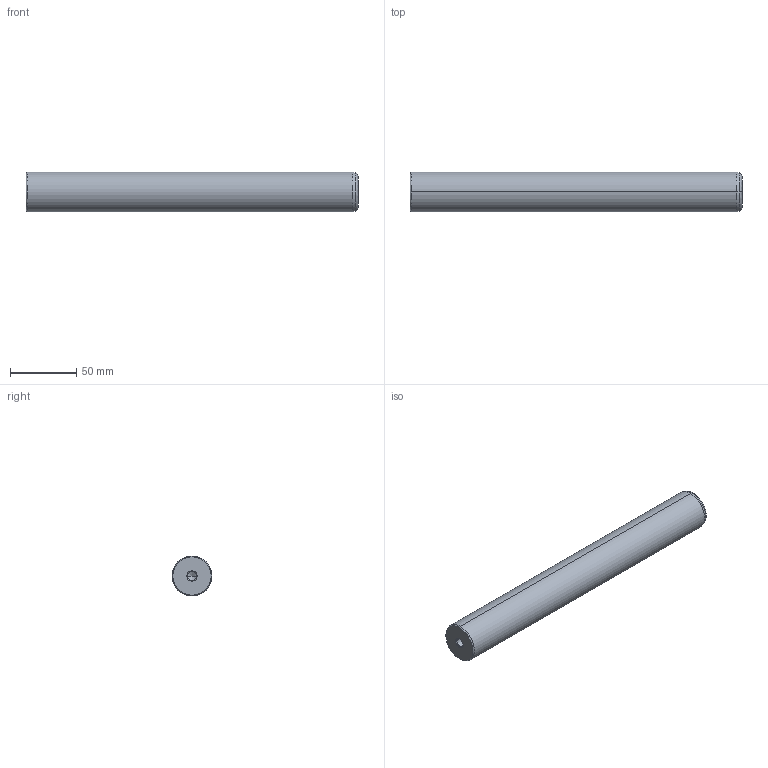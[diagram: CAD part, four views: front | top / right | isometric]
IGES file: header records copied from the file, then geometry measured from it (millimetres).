
Start section: START RECORD GO HERE.
Global section: file name: 720-30x250.igs; native system: DASSAULT SYSTEMES CATIA V5 R20 - www.3ds.com; preprocessor: CATIA Version 5 Release 20 ; author: Utente; organization: NB04-ASUS; date: 20210101.133019; units: millimetre
Bounding box: 250 x 30 x 30 mm (x, y, z)
Surface area: 25772.7 mm2 (no closed solid volume)
Topology: 0 solids, 0 shells, 22 faces, 108 edges, 104 vertices
Faces by surface type: revolution 20, plane 2
